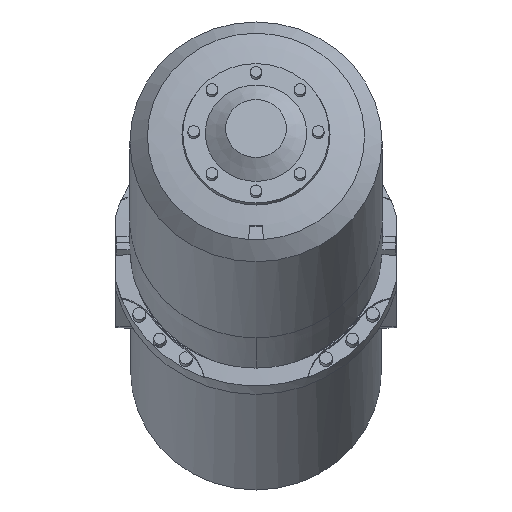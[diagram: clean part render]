
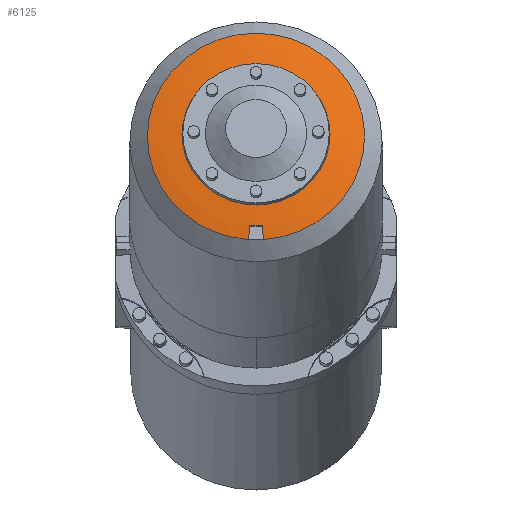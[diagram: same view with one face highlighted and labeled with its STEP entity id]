
A CAD part, left-side view. The second image highlights one B-rep face of the part: STEP entity #6125.
In plain terms, the highlighted toroidal (fillet/blend) face has major radius 57.677 mm and minor radius 419.082 mm.
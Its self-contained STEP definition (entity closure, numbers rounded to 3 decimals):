
#77 = CARTESIAN_POINT ( 'NONE',  ( -840.898, -221.352, 871.747 ) ) ;
#133 = ORIENTED_EDGE ( 'NONE', *, *, #6865, .T. ) ;
#490 = CARTESIAN_POINT ( 'NONE',  ( -839.339, -240.5, 885.18 ) ) ;
#542 = TOROIDAL_SURFACE ( 'NONE', #4867, 57.677, 419.082 ) ;
#909 = VERTEX_POINT ( 'NONE', #3840 ) ;
#1020 = AXIS2_PLACEMENT_3D ( 'NONE', #7700, #3559, #7025 ) ;
#1032 = EDGE_CURVE ( 'NONE', #8539, #5513, #8217, .T. ) ;
#1042 = B_SPLINE_CURVE_WITH_KNOTS ( 'NONE', 3,
 ( #2279, #77, #2783, #8468 ),
 .UNSPECIFIED., .F., .F.,
 ( 4, 4 ),
 ( 0., 0.02 ),
 .UNSPECIFIED. ) ;
#1233 = DIRECTION ( 'NONE',  ( 0.951, 0., -0.309 ) ) ;
#1260 = B_SPLINE_CURVE_WITH_KNOTS ( 'NONE', 3,
 ( #6720, #3901, #2559, #490 ),
 .UNSPECIFIED., .F., .F.,
 ( 4, 4 ),
 ( 0.003, 0.021 ),
 .UNSPECIFIED. ) ;
#1586 = EDGE_LOOP ( 'NONE', ( #5975, #6217, #9030, #8306 ) ) ;
#1680 = CARTESIAN_POINT ( 'NONE',  ( -839.339, -240.5, 885.18 ) ) ;
#1980 = DIRECTION ( 'NONE',  ( 0.951, 0., -0.309 ) ) ;
#2069 = CIRCLE ( 'NONE', #1020, 105.639 ) ;
#2279 = CARTESIAN_POINT ( 'NONE',  ( -841.431, -220.784, 865.005 ) ) ;
#2559 = CARTESIAN_POINT ( 'NONE',  ( -839.41, -234.5, 885.207 ) ) ;
#2772 = CARTESIAN_POINT ( 'NONE',  ( -793.648, -231.5, 1012.067 ) ) ;
#2783 = CARTESIAN_POINT ( 'NONE',  ( -840.2, -221.924, 878.472 ) ) ;
#3428 = FACE_OUTER_BOUND ( 'NONE', #1586, .T. ) ;
#3495 = VERTEX_POINT ( 'NONE', #5054 ) ;
#3517 = CARTESIAN_POINT ( 'NONE',  ( -839.339, -240.5, 885.18 ) ) ;
#3541 = CARTESIAN_POINT ( 'NONE',  ( -839.339, -222.5, 885.18 ) ) ;
#3559 = DIRECTION ( 'NONE',  ( 0.951, 0., -0.309 ) ) ;
#3840 = CARTESIAN_POINT ( 'NONE',  ( -801.926, -125.861, 1014.756 ) ) ;
#3901 = CARTESIAN_POINT ( 'NONE',  ( -839.41, -228.5, 885.207 ) ) ;
#4050 = EDGE_CURVE ( 'NONE', #8091, #5513, #1260, .T. ) ;
#4235 = EDGE_CURVE ( 'NONE', #3495, #8091, #1042, .T. ) ;
#4249 = CARTESIAN_POINT ( 'NONE',  ( -841.431, -242.216, 865.005 ) ) ;
#4254 = CARTESIAN_POINT ( 'NONE',  ( -841.431, -242.216, 865.005 ) ) ;
#4767 = CARTESIAN_POINT ( 'NONE',  ( -405.974, -231.5, 886.104 ) ) ;
#4867 = AXIS2_PLACEMENT_3D ( 'NONE', #4767, #1233, #6877 ) ;
#4941 = DIRECTION ( 'NONE',  ( 0., 1., 0. ) ) ;
#5032 = CIRCLE ( 'NONE', #5914, 155. ) ;
#5054 = CARTESIAN_POINT ( 'NONE',  ( -841.431, -220.784, 865.005 ) ) ;
#5224 = CARTESIAN_POINT ( 'NONE',  ( -840.203, -241.077, 878.452 ) ) ;
#5513 = VERTEX_POINT ( 'NONE', #3517 ) ;
#5914 = AXIS2_PLACEMENT_3D ( 'NONE', #2772, #1980, #4941 ) ;
#5975 = ORIENTED_EDGE ( 'NONE', *, *, #1032, .F. ) ;
#6125 = ADVANCED_FACE ( 'NONE', ( #8279, #3428 ), #542, .T. ) ;
#6217 = ORIENTED_EDGE ( 'NONE', *, *, #7476, .F. ) ;
#6683 = EDGE_LOOP ( 'NONE', ( #133 ) ) ;
#6720 = CARTESIAN_POINT ( 'NONE',  ( -839.339, -222.5, 885.18 ) ) ;
#6865 = EDGE_CURVE ( 'NONE', #909, #909, #2069, .T. ) ;
#6877 = DIRECTION ( 'NONE',  ( 0., 1., 0. ) ) ;
#7025 = DIRECTION ( 'NONE',  ( 0., 1., 0. ) ) ;
#7063 = CARTESIAN_POINT ( 'NONE',  ( -840.899, -241.649, 871.727 ) ) ;
#7476 = EDGE_CURVE ( 'NONE', #3495, #8539, #5032, .T. ) ;
#7700 = CARTESIAN_POINT ( 'NONE',  ( -801.926, -231.5, 1014.756 ) ) ;
#8091 = VERTEX_POINT ( 'NONE', #3541 ) ;
#8217 = B_SPLINE_CURVE_WITH_KNOTS ( 'NONE', 3,
 ( #4254, #7063, #5224, #1680 ),
 .UNSPECIFIED., .F., .F.,
 ( 4, 4 ),
 ( 0.104, 0.124 ),
 .UNSPECIFIED. ) ;
#8279 = FACE_OUTER_BOUND ( 'NONE', #6683, .T. ) ;
#8306 = ORIENTED_EDGE ( 'NONE', *, *, #4050, .T. ) ;
#8468 = CARTESIAN_POINT ( 'NONE',  ( -839.339, -222.5, 885.18 ) ) ;
#8539 = VERTEX_POINT ( 'NONE', #4249 ) ;
#9030 = ORIENTED_EDGE ( 'NONE', *, *, #4235, .T. ) ;
